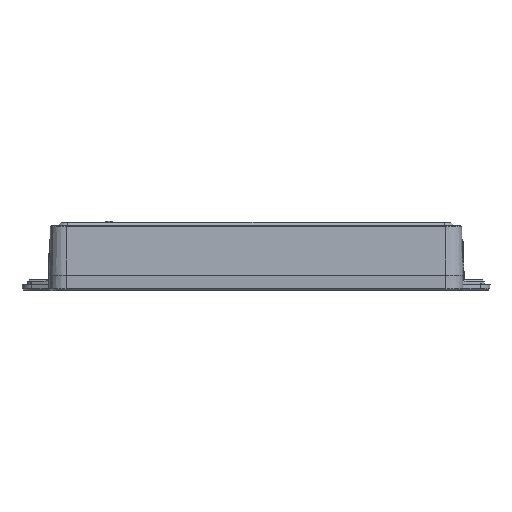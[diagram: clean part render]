
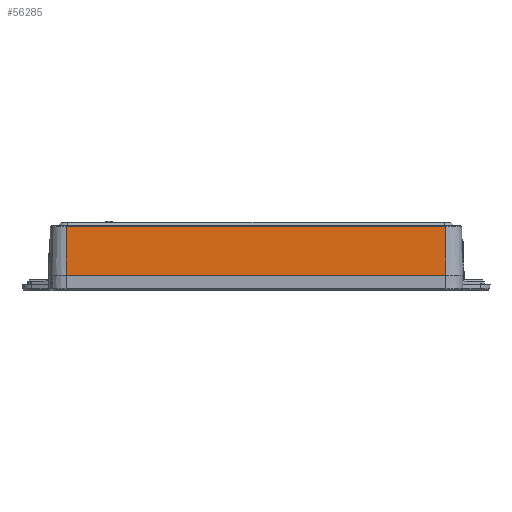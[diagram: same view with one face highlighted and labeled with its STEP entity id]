
A CAD part, front view. The second image highlights one B-rep face of the part: STEP entity #56285.
In plain terms, the highlighted planar face has unit normal (0, -1, 0.026).
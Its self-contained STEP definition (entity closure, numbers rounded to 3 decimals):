
#13790=ORIENTED_EDGE('',*,*,#22211,.T.);
#13791=ORIENTED_EDGE('',*,*,#22212,.T.);
#13792=ORIENTED_EDGE('',*,*,#22213,.F.);
#13793=ORIENTED_EDGE('',*,*,#22180,.F.);
#22180=EDGE_CURVE('',#27111,#27109,#31722,.T.);
#22211=EDGE_CURVE('',#27111,#27132,#31740,.T.);
#22212=EDGE_CURVE('',#27132,#27133,#31741,.T.);
#22213=EDGE_CURVE('',#27109,#27133,#31742,.T.);
#27109=VERTEX_POINT('',#91001);
#27111=VERTEX_POINT('',#91005);
#27132=VERTEX_POINT('',#91074);
#27133=VERTEX_POINT('',#91076);
#31722=LINE('',#91006,#36399);
#31740=LINE('',#91073,#36417);
#31741=LINE('',#91075,#36418);
#31742=LINE('',#91077,#36419);
#36399=VECTOR('',#68078,1000.);
#36417=VECTOR('',#68154,1000.);
#36418=VECTOR('',#68155,1000.);
#36419=VECTOR('',#68156,1000.);
#39411=EDGE_LOOP('',(#13790,#13791,#13792,#13793));
#42187=FACE_BOUND('',#39411,.T.);
#44150=PLANE('',#59045);
#56285=ADVANCED_FACE('',(#42187),#44150,.F.);
#59045=AXIS2_PLACEMENT_3D('',#91072,#68152,#68153);
#68078=DIRECTION('',(1.,0.,0.));
#68152=DIRECTION('',(0.,1.,-0.026));
#68153=DIRECTION('',(0.,0.026,1.));
#68154=DIRECTION('',(0.,-0.026,-1.));
#68155=DIRECTION('',(1.,0.,0.));
#68156=DIRECTION('',(0.,-0.026,-1.));
#91001=CARTESIAN_POINT('',(111.,-46.45,37.5));
#91005=CARTESIAN_POINT('',(-111.,-46.45,37.5));
#91006=CARTESIAN_POINT('',(-111.,-46.45,37.5));
#91072=CARTESIAN_POINT('',(0.,-46.823,23.25));
#91073=CARTESIAN_POINT('',(-111.,-46.45,37.5));
#91074=CARTESIAN_POINT('',(-111.,-47.196,9.));
#91075=CARTESIAN_POINT('',(-111.,-47.196,9.));
#91076=CARTESIAN_POINT('',(111.,-47.196,9.));
#91077=CARTESIAN_POINT('',(111.,-46.45,37.5));
